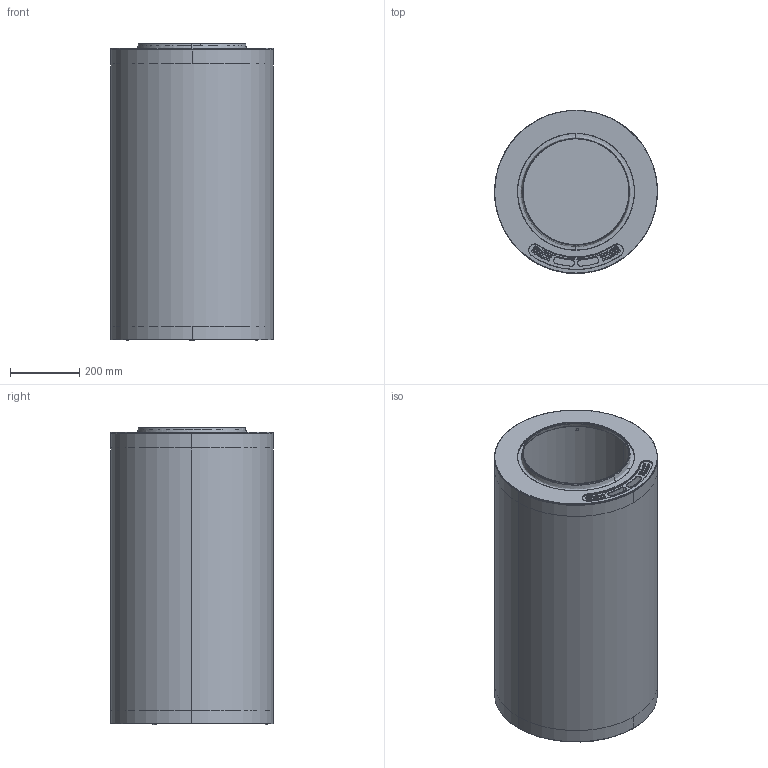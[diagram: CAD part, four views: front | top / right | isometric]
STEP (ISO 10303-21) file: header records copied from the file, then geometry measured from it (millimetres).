
FILE_DESCRIPTION(/* description */ (''),/* implementation_level */ '2;1');
FILE_NAME(/* name */ 'NYON3D~1',/* time_stamp */ '2020-03-23T22:48:10+01:00',/* author */ (''),/* organization */ (''),/* preprocessor_version */ 'ST-DEVELOPER v15',/* originating_system */ '',/* authorisation */ '');
FILE_SCHEMA (('CONFIG_CONTROL_DESIGN'));
Length unit declared in the file: millimetre
Products named in the file (5): Document; nyon; cabezal_cenicero; aro estructura+posicionadores; aro estructura inferior+soporte suelo
Assembly tree (4 placements, depth 3):
  Document
    nyon
      cabezal_cenicero
      aro estructura+posicionadores
      aro estructura inferior+soporte suelo
Bounding box: 472 x 472 x 862.75 mm (x, y, z)
Volume: 3932949.5 mm3; surface area: 5615473.5 mm2
Topology: 26 solids, 51 shells, 530 faces, 1257 edges, 819 vertices
Faces by surface type: bspline 411, plane 119
Entity records: 28036 total; most frequent: CARTESIAN_POINT 20330, ORIENTED_EDGE 2390, EDGE_CURVE 1249, VERTEX_POINT 819, EDGE_LOOP 647, ADVANCED_FACE 530, FACE_OUTER_BOUND 530, B_SPLINE_CURVE_WITH_KNOTS 434
